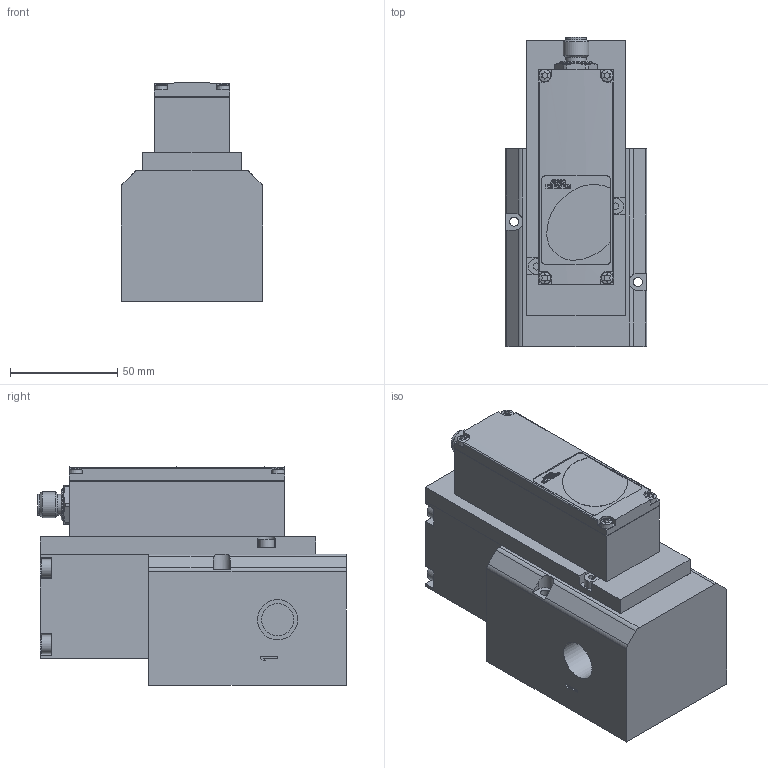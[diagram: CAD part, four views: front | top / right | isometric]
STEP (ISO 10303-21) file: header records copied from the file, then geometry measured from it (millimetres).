
FILE_DESCRIPTION( ( 'STEP AP214' ), ' ' );
FILE_NAME( 'p:/temp/worker_105/3028_36/app_42_02017102311204944234286192d056f_000000_00_00_000000/format_0/G617A80011A0003.stp', '2017-10-23T09:20:50', ( '' ), ( '' ), ' ', 'PARTsolutions', ' ' );
FILE_SCHEMA( ( 'AUTOMOTIVE_DESIGN { 1 0 10303 214 1 1 1 1 }' ) );
Length unit declared in the file: millimetre
Products named in the file (3): G617A80011A0003; _wk-dn-15E_back; _617EDN20-2_valve
Assembly tree (2 placements, depth 2):
  G617A80011A0003
    _wk-dn-15E_back
    _617EDN20-2_valve
Bounding box: 66 x 143.7 x 101.67 mm (x, y, z)
Volume: 621952.1 mm3; surface area: 66064.8 mm2
Topology: 2 solids, 2 shells, 603 faces, 1595 edges, 1052 vertices
Faces by surface type: plane 446, cylinder 138, cone 15, sphere 4
Full cylindrical faces by diameter (mm): 1 x5, 1.4 x1, 3.3 x1, 4.2 x2, 7.25 x2, 8.4 x1, 8.5 x4, 9.6 x2, 12 x1, 13 x1, 15 x2, 18.631 x1, 19 x2
Entity records: 23399 total; most frequent: CARTESIAN_POINT 3455, ORIENTED_EDGE 3096, DIRECTION 3091, EDGE_CURVE 1548, LINE 1167, VECTOR 1167, VERTEX_POINT 1044, AXIS2_PLACEMENT_3D 962
